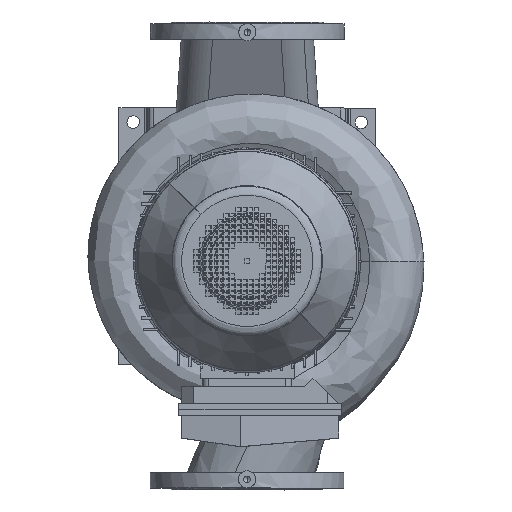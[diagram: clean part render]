
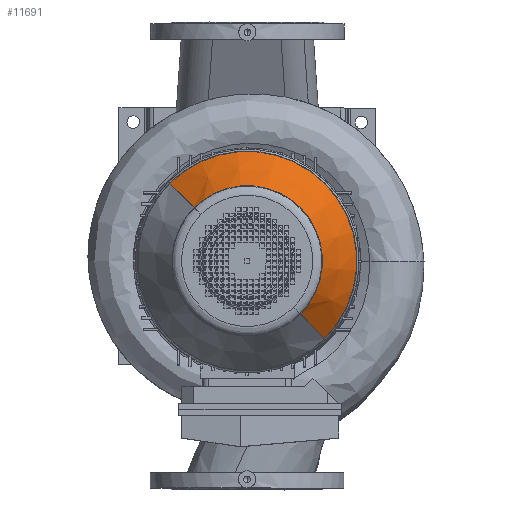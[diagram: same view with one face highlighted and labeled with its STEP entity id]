
A CAD part, top view. The second image highlights one B-rep face of the part: STEP entity #11691.
In plain terms, the highlighted conical face has half-angle 32.471 degrees and reference radius 126 mm.
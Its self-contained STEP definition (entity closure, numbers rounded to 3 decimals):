
#11691=ADVANCED_FACE('',(#26526),#26527,.T.);
#13387=EDGE_CURVE('',#29489,#29490,#29491,.T.);
#13389=EDGE_CURVE('',#29493,#29494,#29495,.T.);
#26526=FACE_OUTER_BOUND('',#50555,.T.);
#26527=CONICAL_SURFACE('',#50556,126.0,0.567);
#29489=VERTEX_POINT('',#53523);
#29490=VERTEX_POINT('',#53524);
#29491=CIRCLE('',#53525,192.873);
#29493=VERTEX_POINT('',#53528);
#29494=VERTEX_POINT('',#53529);
#29495=CIRCLE('',#53530,131.894);
#50555=EDGE_LOOP('',(#77832,#77833,#77834,#77835));
#50556=AXIS2_PLACEMENT_3D('',#77836,#77837,#77838);
#53523=CARTESIAN_POINT('',(192.873,0.,114.913));
#53524=CARTESIAN_POINT('',(-192.873,0.,114.913));
#53525=AXIS2_PLACEMENT_3D('',#86287,#86288,#86289);
#53528=CARTESIAN_POINT('',(-131.894,0.,210.738));
#53529=CARTESIAN_POINT('',(131.894,0.,210.738));
#53530=AXIS2_PLACEMENT_3D('',#86290,#86291,#86292);
#77832=ORIENTED_EDGE('',*,*,#92777,.F.);
#77833=ORIENTED_EDGE('',*,*,#13387,.F.);
#77834=ORIENTED_EDGE('',*,*,#92778,.F.);
#77835=ORIENTED_EDGE('',*,*,#13389,.F.);
#77836=CARTESIAN_POINT('',(0.0,0.0,220.0));
#77837=DIRECTION('',(-0.0,-0.0,-1.0));
#77838=DIRECTION('',(-1.0,0.,0.0));
#86287=CARTESIAN_POINT('',(0.0,0.0,114.913));
#86288=DIRECTION('',(0.0,0.0,-1.0));
#86289=DIRECTION('',(1.0,0.,0.0));
#86290=CARTESIAN_POINT('',(0.0,0.0,210.738));
#86291=DIRECTION('',(0.0,-0.0,1.0));
#86292=DIRECTION('',(1.0,0.,0.0));
#92777=EDGE_CURVE('',#29490,#29493,#95561,.T.);
#92778=EDGE_CURVE('',#29494,#29489,#95562,.T.);
#95561=LINE('',#98967,#98968);
#95562=LINE('',#98969,#98970);
#98967=CARTESIAN_POINT('',(-126.0,0.,220.0));
#98968=VECTOR('',#103481,1.0);
#98969=CARTESIAN_POINT('',(126.0,0.,220.0));
#98970=VECTOR('',#103482,1.0);
#103481=DIRECTION('',(0.537,0.,0.844));
#103482=DIRECTION('',(0.537,0.,-0.844));
